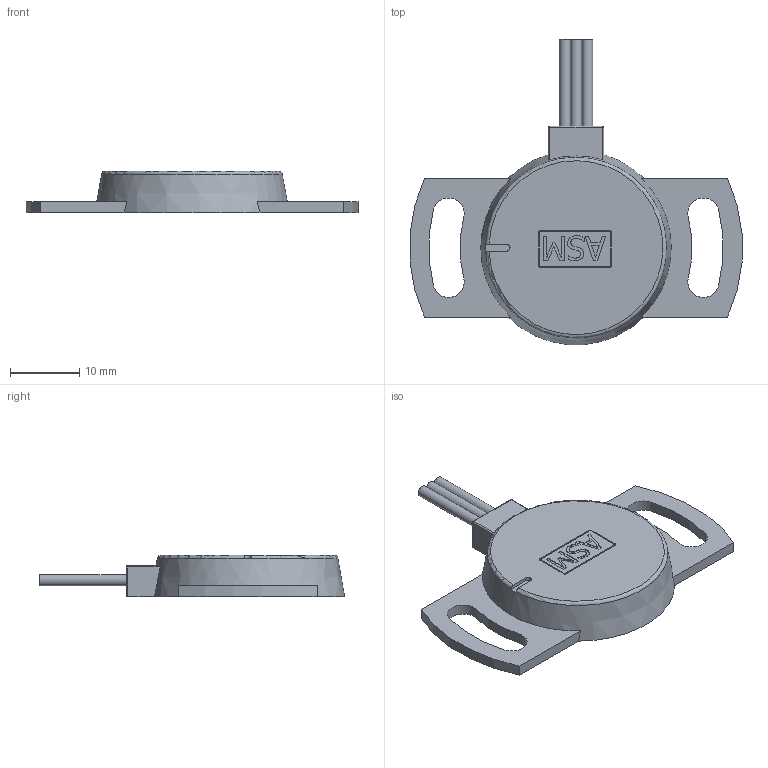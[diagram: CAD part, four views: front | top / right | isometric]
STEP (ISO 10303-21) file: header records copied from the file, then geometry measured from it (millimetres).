
FILE_DESCRIPTION((''),'2;1');
FILE_NAME('K:\Daten\PRAS20.stp','2011-06-16T17:46:57',('kamp'),(''),'Autodesk Inventor 2008','Autodesk Inventor 2008','');
FILE_SCHEMA(('AUTOMOTIVE_DESIGN { 1 0 10303 214 1 1 1 1 }'));
Length unit declared in the file: millimetre
Products named in the file (1): Bauteil9
Bounding box: 47.82 x 43.95 x 6 mm (x, y, z)
Volume: 4132.1 mm3; surface area: 2749.8 mm2
Topology: 1 solids, 1 shells, 107 faces, 284 edges, 184 vertices
Faces by surface type: plane 60, cylinder 27, bspline 16, sphere 2, torus 1, cone 1
Full cylindrical faces by diameter (mm): 1.59 x1, 1.6 x2
Entity records: 3510 total; most frequent: CARTESIAN_POINT 830, ORIENTED_EDGE 556, DIRECTION 481, EDGE_CURVE 278, VERTEX_POINT 182, VECTOR 175, LINE 175, AXIS2_PLACEMENT_3D 153
